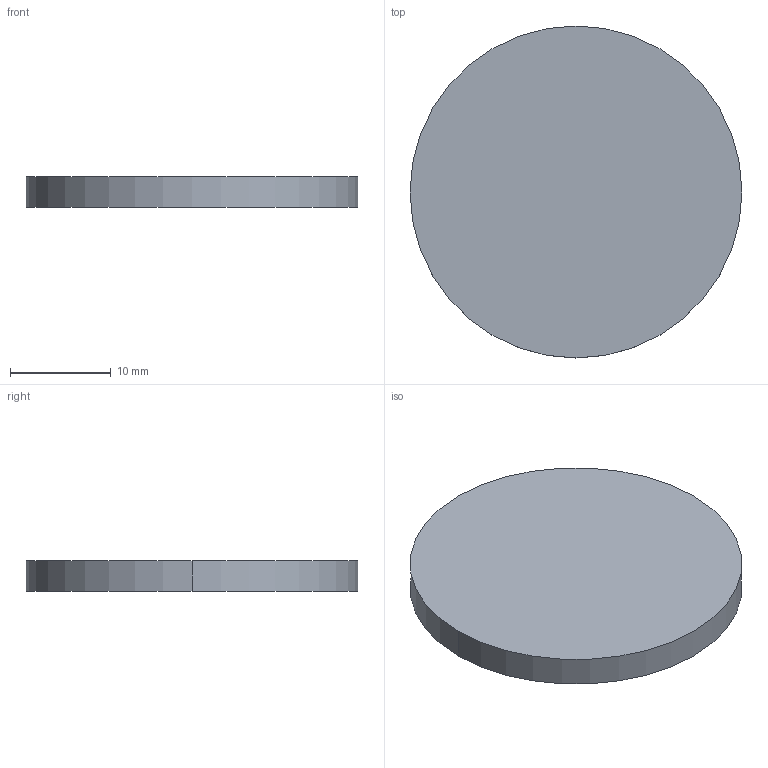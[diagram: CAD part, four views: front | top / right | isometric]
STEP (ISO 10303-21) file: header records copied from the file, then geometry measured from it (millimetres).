
FILE_DESCRIPTION(('Open CASCADE Model'),'2;1');
FILE_NAME('acrylic-contact-window.step','2026-11-14T14:31:58',('Author') ,('Open CASCADE'),'Open CASCADE STEP processor 8.0','Open CASCADE 8.0' ,'Unknown');
FILE_SCHEMA(('AP242_MANAGED_MODEL_BASED_3D_ENGINEERING_MIM_LF {1 0 10303 442 1 1 4 }' ));
Length unit declared in the file: millimetre
Products named in the file (1): Acrylic Contact Window
Bounding box: 33 x 33 x 3 mm (x, y, z)
Volume: 2565.9 mm3; surface area: 2021.6 mm2
Topology: 1 solids, 1 shells, 4 faces, 6 edges, 4 vertices
Faces by surface type: cylinder 2, plane 2
Entity records: 182 total; most frequent: DIRECTION 32, CARTESIAN_POINT 27, ORIENTED_EDGE 12, PCURVE 12, DEFINITIONAL_REPRESENTATION 12, LINE 10, VECTOR 10, AXIS2_PLACEMENT_3D 9
